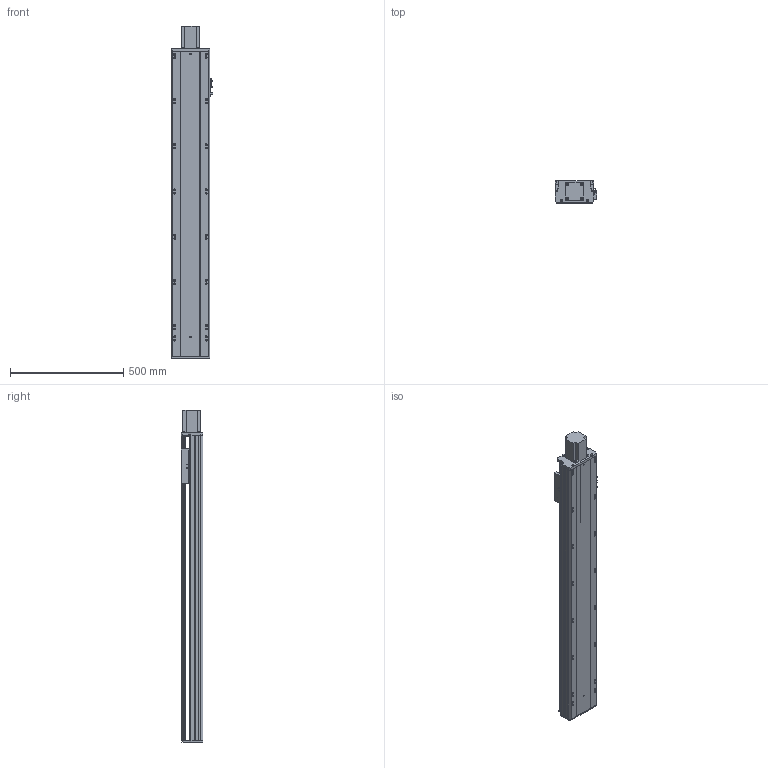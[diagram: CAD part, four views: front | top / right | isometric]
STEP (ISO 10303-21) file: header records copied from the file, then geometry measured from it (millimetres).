
FILE_DESCRIPTION (( 'STEP AP203' ), '1' );
FILE_NAME ('Y170-D10-S1100-BD-P750W.STEP', '2020-01-22T07:08:12', ( '微软用户' ), ( '微软中国' ), 'SwSTEP 2.0', 'SolidWorks 2017', '' );
FILE_SCHEMA (( 'CONFIG_CONTROL_DESIGN' ));
Length unit declared in the file: millimetre
Products named in the file (10): 135-盓傅釱-FK15; 侂狟750W; Y170耜裔--準---; Y170-陔遴奻裔-BD; Y170--雄赽釱-梓--; YD-Y100-135-新外置传感挡片(通用）; Y170-D10-S1100-BD-P750W; Y100-135俋离換覜ん; 170--掛极-BD; Y170-萇儂楊擘啣--
Assembly tree (11 placements, depth 2):
  Y170-D10-S1100-BD-P750W
    YD-Y100-135-新外置传感挡片(通用）
    Y100-135俋离換覜ん  x3
    170--掛极-BD
    Y170-萇儂楊擘啣--
    135-盓傅釱-FK15
    侂狟750W
    Y170耜裔--準---
    Y170-陔遴奻裔-BD
    Y170--雄赽釱-梓--
Bounding box: 183.5 x 97 x 1468.5 mm (x, y, z)
Volume: 6219725.1 mm3; surface area: 2113424.4 mm2
Topology: 11 solids, 11 shells, 840 faces, 2403 edges, 1592 vertices
Faces by surface type: cylinder 450, plane 388, torus 2
Entity records: 27551 total; most frequent: CARTESIAN_POINT 4995, DIRECTION 4585, ORIENTED_EDGE 4470, EDGE_CURVE 2235, AXIS2_PLACEMENT_3D 1654, VERTEX_POINT 1480, VECTOR 1277, LINE 1277
